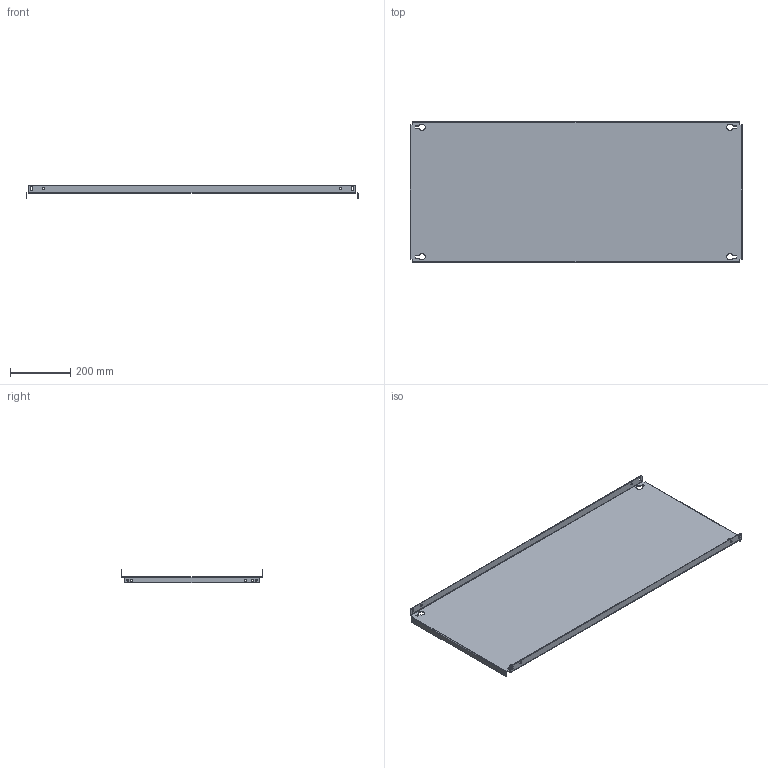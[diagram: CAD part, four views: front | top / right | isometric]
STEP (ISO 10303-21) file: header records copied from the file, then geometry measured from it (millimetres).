
FILE_DESCRIPTION (( 'STEP AP203' ), '1' );
FILE_NAME ('R5PPS5012.STEP', '2021-12-20T07:10:04', ( '' ), ( '' ), 'SwSTEP 2.0', 'SolidWorks 2020', '' );
FILE_SCHEMA (( 'CONFIG_CONTROL_DESIGN' ));
Length unit declared in the file: millimetre
Products named in the file (1): R5PPS5012
Bounding box: 1100 x 469 x 43.5 mm (x, y, z)
Volume: 1443737.4 mm3; surface area: 1165226.4 mm2
Topology: 1 solids, 1 shells, 136 faces, 370 edges, 236 vertices
Faces by surface type: cylinder 78, plane 58
Entity records: 4479 total; most frequent: DIRECTION 800, CARTESIAN_POINT 743, ORIENTED_EDGE 740, EDGE_CURVE 370, AXIS2_PLACEMENT_3D 293, VERTEX_POINT 236, VECTOR 214, LINE 214
